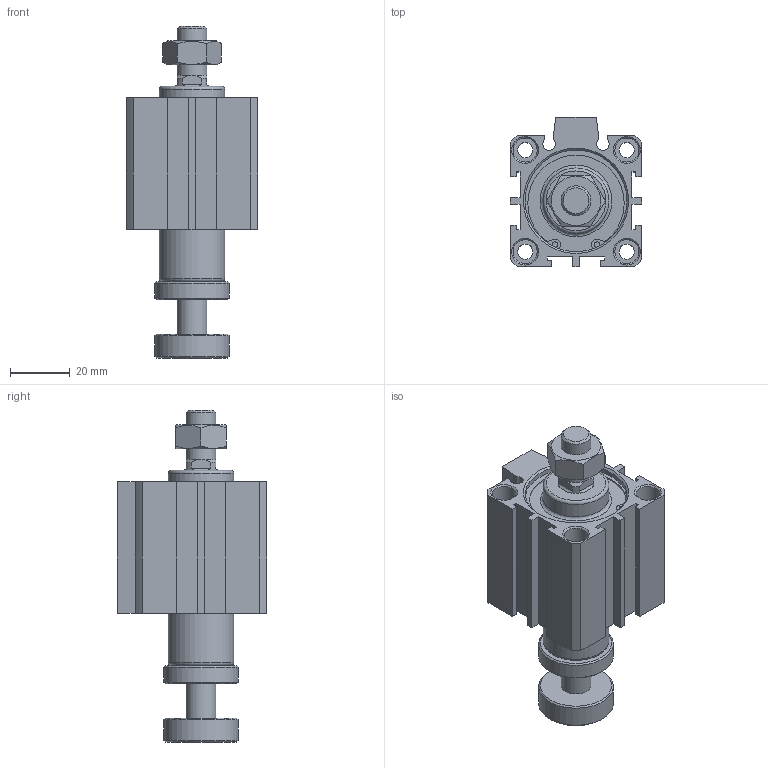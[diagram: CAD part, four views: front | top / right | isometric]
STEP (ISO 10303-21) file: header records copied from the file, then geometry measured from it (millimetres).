
FILE_DESCRIPTION((''),'2;1');
FILE_NAME('I:\3D電子目錄\氣缸\JDAR\JDAR-B\JDAR32-B\JDAR32x20-B.stp','2007-03-14T13:52:46',('662F206'),(''),'Autodesk Inventor 11','Autodesk Inventor 11','');
FILE_SCHEMA(('AUTOMOTIVE_DESIGN { 1 0 10303 214 1 1 1 1 }'));
Length unit declared in the file: millimetre
Products named in the file (3): JDAR32-B; R 形環 35
Assembly tree (3 placements, depth 2):
  JDAR32-B
    JDAR32-B
    R 形環 35  x2
Bounding box: 44 x 50 x 111.1 mm (x, y, z)
Volume: 89790.9 mm3; surface area: 26995.4 mm2
Topology: 3 solids, 3 shells, 180 faces, 421 edges, 273 vertices
Faces by surface type: plane 98, cylinder 53, cone 25, bspline 2, torus 2
Full cylindrical faces by diameter (mm): 1.9 x4, 2.2 x2, 5.1 x4, 8 x8, 10 x3, 22 x2, 25 x2, 34 x4, 36 x2
Entity records: 4639 total; most frequent: CARTESIAN_POINT 882, DIRECTION 784, ORIENTED_EDGE 664, EDGE_CURVE 332, AXIS2_PLACEMENT_3D 300, EDGE_LOOP 260, VERTEX_POINT 248, VECTOR 184
